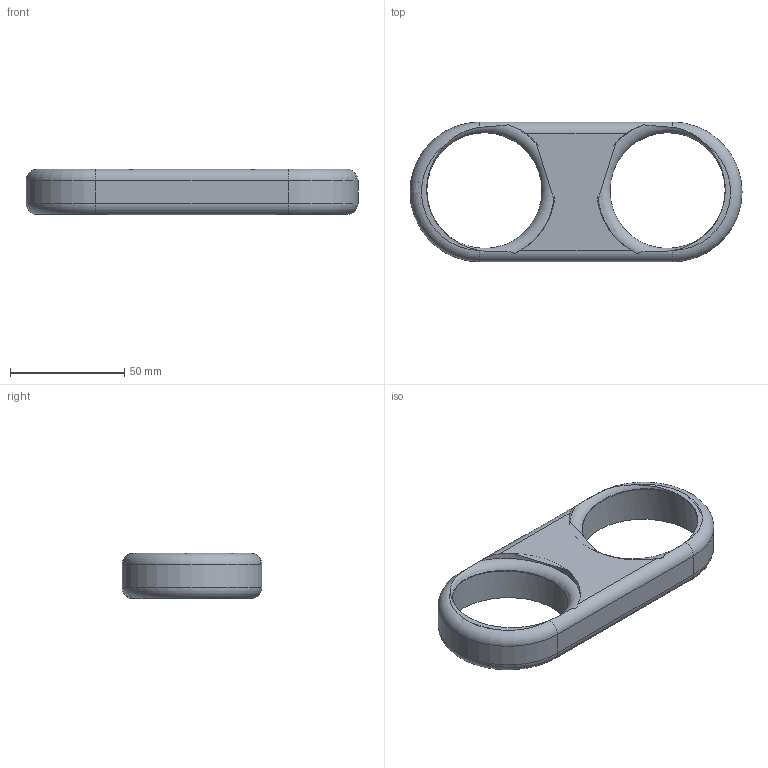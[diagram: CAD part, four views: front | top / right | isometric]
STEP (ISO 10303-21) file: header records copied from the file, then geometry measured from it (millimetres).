
FILE_DESCRIPTION(('Open CASCADE Model'),'2;1');
FILE_NAME('Open CASCADE Shape Model','2026-11-26T14:02:27',('Author'),( 'Open CASCADE'),'Open CASCADE STEP processor 7.9','Open CASCADE 7.9' ,'Unknown');
FILE_SCHEMA(('AUTOMOTIVE_DESIGN { 1 0 10303 214 1 1 1 1 }'));
Length unit declared in the file: millimetre
Products named in the file (1): Open CASCADE STEP translator 7.9 5
Bounding box: 145.1 x 61.1 x 20 mm (x, y, z)
Volume: 64117.7 mm3; surface area: 20487 mm2
Topology: 1 solids, 1 shells, 32 faces, 82 edges, 52 vertices
Faces by surface type: cylinder 14, plane 12, torus 6
Full cylindrical faces by diameter (mm): 4 x2, 50.6 x2, 54.3 x2
Entity records: 6706 total; most frequent: CARTESIAN_POINT 5167, DIRECTION 255, ORIENTED_EDGE 164, PCURVE 164, DEFINITIONAL_REPRESENTATION 164, B_SPLINE_CURVE_WITH_KNOTS 95, LINE 92, VECTOR 92
